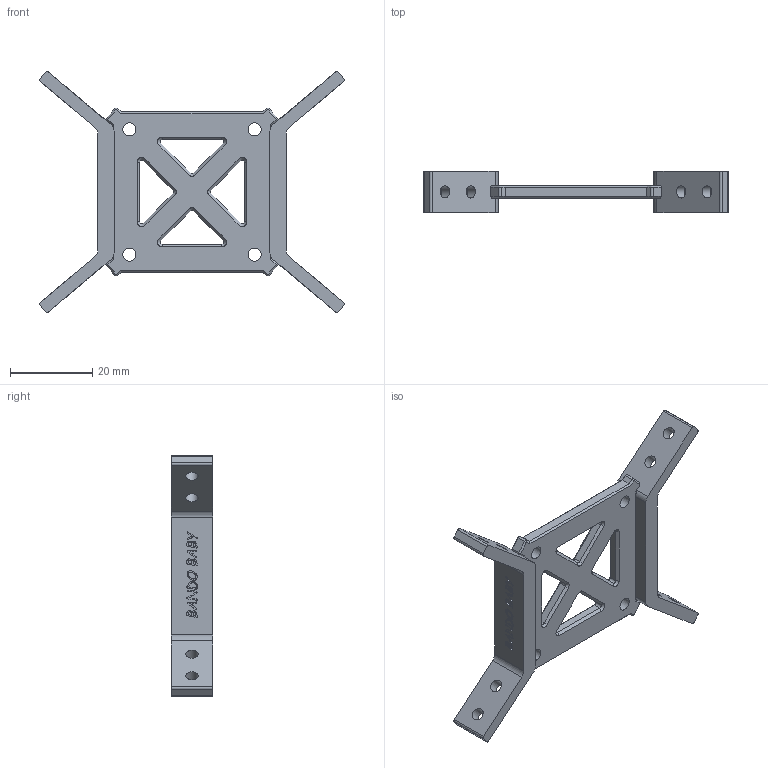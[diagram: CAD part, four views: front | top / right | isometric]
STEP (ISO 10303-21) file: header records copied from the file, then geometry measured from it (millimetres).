
FILE_DESCRIPTION(/* description */ (''),/* implementation_level */ '2;1');
FILE_NAME(/* name */ 'D:\3D Printing & CAD Work\Customers\My self\Drone 3.0\Thingiverce\Assembly2.stp',/* time_stamp */ '2018-11-19T19:00:51+02:00',/* author */ ('Damien'),/* organization */ (''),/* preprocessor_version */ 'ST-DEVELOPER v17',/* originating_system */ 'Autodesk Inventor 2018',/* authorisation */ '');
FILE_SCHEMA (('AUTOMOTIVE_DESIGN { 1 0 10303 214 3 1 1 }'));
Length unit declared in the file: inch
Products named in the file (1): Assembly2
Bounding box: 74.19 x 10 x 58.63 mm (x, y, z)
Volume: 8180.4 mm3; surface area: 7094.5 mm2
Topology: 1 solids, 1 shells, 396 faces, 1037 edges, 654 vertices
Faces by surface type: plane 182, bspline 114, cylinder 52, cone 48
Full cylindrical faces by diameter (mm): 3 x8, 3.2 x4
Entity records: 12606 total; most frequent: CARTESIAN_POINT 3462, ORIENTED_EDGE 2074, DIRECTION 1535, EDGE_CURVE 1037, VERTEX_POINT 654, LINE 633, VECTOR 633, AXIS2_PLACEMENT_3D 451
